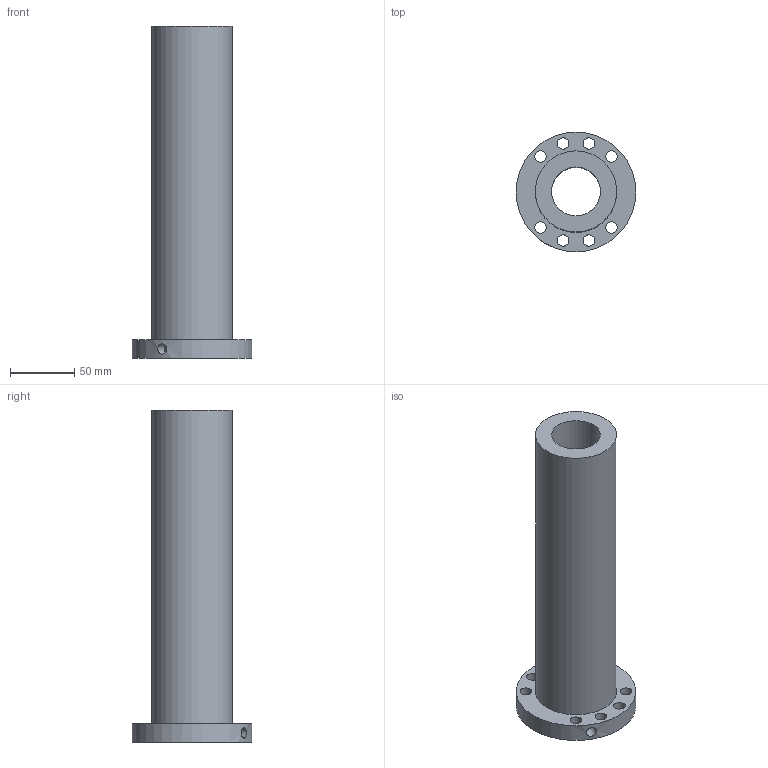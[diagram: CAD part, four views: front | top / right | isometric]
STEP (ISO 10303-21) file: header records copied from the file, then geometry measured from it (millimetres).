
FILE_DESCRIPTION(/* description */ (''),/* implementation_level */ '2;1');
FILE_NAME(/* name */ '38-25K4_635',/* time_stamp */ '2007-10-15T12:53:58+08:00',/* author */ (''),/* organization */ (''),/* preprocessor_version */ 'ST-DEVELOPER v11',/* originating_system */ 'UGS - NX 5.0',/* authorisation */ '');
FILE_SCHEMA (('CONFIG_CONTROL_DESIGN'));
Length unit declared in the file: millimetre
Products named in the file (1): 38-25K4_635
Bounding box: 93 x 93 x 258 mm (x, y, z)
Volume: 554985.2 mm3; surface area: 97174.1 mm2
Topology: 1 solids, 1 shells, 17 faces, 40 edges, 27 vertices
Faces by surface type: cylinder 13, plane 4
Full cylindrical faces by diameter (mm): 6 x1, 8 x1, 9 x8, 38 x1, 63 x1, 93 x1
Entity records: 668 total; most frequent: CARTESIAN_POINT 184, DIRECTION 84, FACE_BOUND 52, EDGE_LOOP 52, ORIENTED_EDGE 52, AXIS2_PLACEMENT_3D 42, VERTEX_POINT 26, EDGE_CURVE 26
